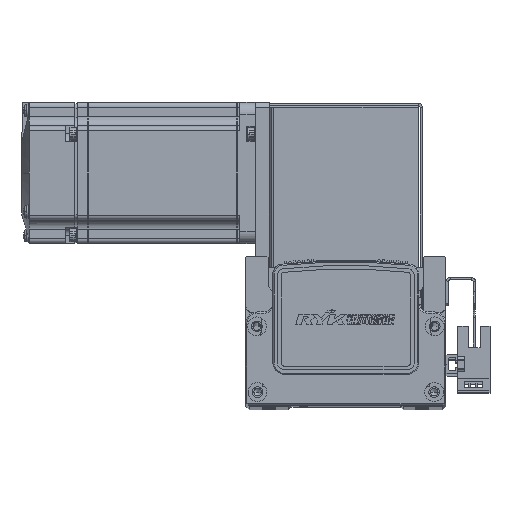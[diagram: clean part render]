
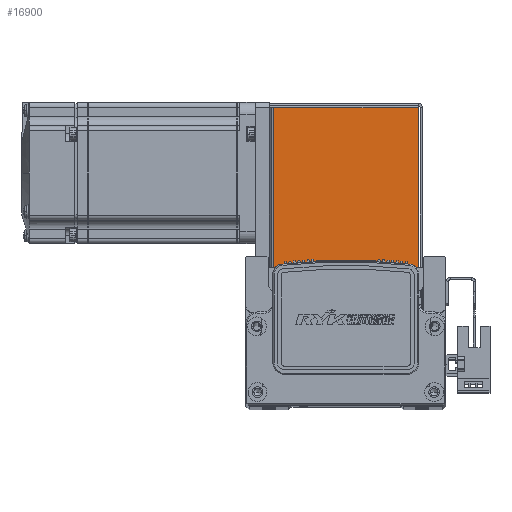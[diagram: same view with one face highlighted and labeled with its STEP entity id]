
A CAD part, top view. The second image highlights one B-rep face of the part: STEP entity #16900.
In plain terms, the highlighted planar face has unit normal (0, 0, 1).
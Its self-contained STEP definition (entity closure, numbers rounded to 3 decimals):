
#2662 = PLANE ( 'NONE',  #46526 ) ;
#2664 = DIRECTION ( 'NONE',  ( 0., 0., -1. ) ) ;
#2682 = DIRECTION ( 'NONE',  ( -1., 0., 0. ) ) ;
#2685 = CARTESIAN_POINT ( 'NONE',  ( 0., 0., 35. ) ) ;
#16900 = ADVANCED_FACE ( 'NONE', ( #17227 ), #2662, .F. ) ;
#17227 = FACE_OUTER_BOUND ( 'NONE', #31967, .T. ) ;
#19558 = LINE ( 'NONE', #48461, #19560 ) ;
#19560 = VECTOR ( 'NONE', #48459, 1000. ) ;
#20487 = VECTOR ( 'NONE', #48650, 1000. ) ;
#20491 = VECTOR ( 'NONE', #48651, 1000. ) ;
#20521 = LINE ( 'NONE', #48667, #20491 ) ;
#20527 = LINE ( 'NONE', #48628, #20487 ) ;
#20607 = LINE ( 'NONE', #48848, #20617 ) ;
#20617 = VECTOR ( 'NONE', #48864, 1000. ) ;
#23161 = ORIENTED_EDGE ( 'NONE', *, *, #44241, .T. ) ;
#23274 = ORIENTED_EDGE ( 'NONE', *, *, #44133, .F. ) ;
#23278 = ORIENTED_EDGE ( 'NONE', *, *, #44213, .T. ) ;
#23402 = ORIENTED_EDGE ( 'NONE', *, *, #44135, .F. ) ;
#31967 = EDGE_LOOP ( 'NONE', ( #23278, #23161, #23402, #23274 ) ) ;
#44133 = EDGE_CURVE ( 'NONE', #73558, #73561, #20527, .T. ) ;
#44135 = EDGE_CURVE ( 'NONE', #73561, #73605, #20521, .T. ) ;
#44213 = EDGE_CURVE ( 'NONE', #73558, #73594, #20607, .T. ) ;
#44241 = EDGE_CURVE ( 'NONE', #73594, #73605, #19558, .T. ) ;
#46526 = AXIS2_PLACEMENT_3D ( 'NONE', #2685, #2664, #2682 ) ;
#48459 = DIRECTION ( 'NONE',  ( -1., 0., 0. ) ) ;
#48461 = CARTESIAN_POINT ( 'NONE',  ( 0., 68.5, 35. ) ) ;
#48628 = CARTESIAN_POINT ( 'NONE',  ( -32.5, 0.737, 35. ) ) ;
#48650 = DIRECTION ( 'NONE',  ( -1., 0., 0. ) ) ;
#48651 = DIRECTION ( 'NONE',  ( 0., 1., 0. ) ) ;
#48667 = CARTESIAN_POINT ( 'NONE',  ( -30.793, 0., 35. ) ) ;
#48848 = CARTESIAN_POINT ( 'NONE',  ( 30.763, 0.737, 35. ) ) ;
#48864 = DIRECTION ( 'NONE',  ( 0., 1., 0. ) ) ;
#59575 = CARTESIAN_POINT ( 'NONE',  ( 30.763, 0.737, 35. ) ) ;
#59620 = CARTESIAN_POINT ( 'NONE',  ( -30.793, 0.737, 35. ) ) ;
#59648 = CARTESIAN_POINT ( 'NONE',  ( 30.763, 68.5, 35. ) ) ;
#59695 = CARTESIAN_POINT ( 'NONE',  ( -30.793, 68.5, 35. ) ) ;
#73558 = VERTEX_POINT ( 'NONE', #59575 ) ;
#73561 = VERTEX_POINT ( 'NONE', #59620 ) ;
#73594 = VERTEX_POINT ( 'NONE', #59648 ) ;
#73605 = VERTEX_POINT ( 'NONE', #59695 ) ;
